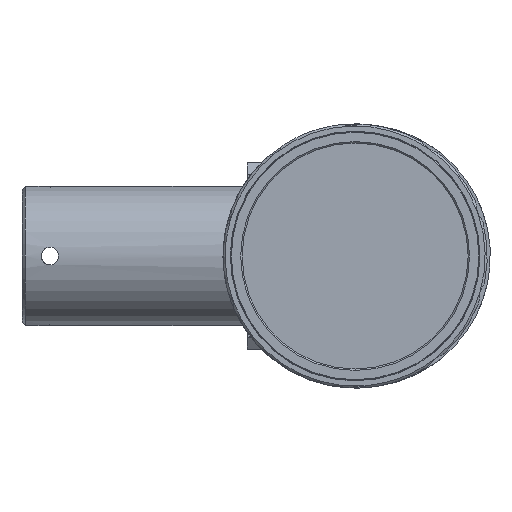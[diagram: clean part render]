
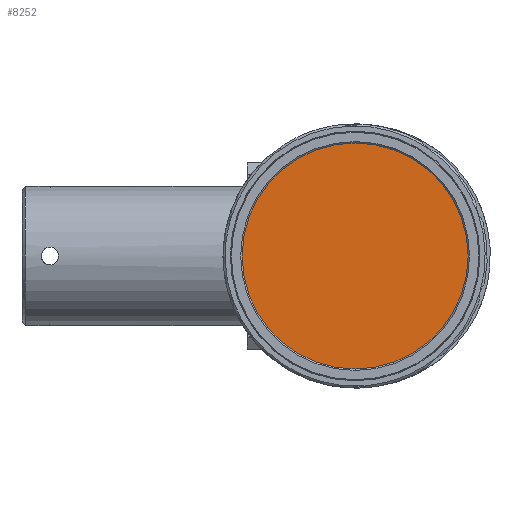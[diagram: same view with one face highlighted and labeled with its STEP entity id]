
A CAD part, left-side view. The second image highlights one B-rep face of the part: STEP entity #8252.
In plain terms, the highlighted planar face has unit normal (-1, 0, 0).
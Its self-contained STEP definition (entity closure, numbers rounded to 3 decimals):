
#129 = CIRCLE ( 'NONE', #4841, 16.25 ) ;
#452 = VERTEX_POINT ( 'NONE', #5163 ) ;
#716 = DIRECTION ( 'NONE',  ( 1., 0., 0. ) ) ;
#1548 = AXIS2_PLACEMENT_3D ( 'NONE', #9177, #716, #7636 ) ;
#2370 = ORIENTED_EDGE ( 'NONE', *, *, #4574, .T. ) ;
#2728 = ORIENTED_EDGE ( 'NONE', *, *, #4948, .T. ) ;
#3091 = CARTESIAN_POINT ( 'NONE',  ( 1.342, 0., 0. ) ) ;
#3210 = DIRECTION ( 'NONE',  ( -1., 0., 0. ) ) ;
#4259 = CARTESIAN_POINT ( 'NONE',  ( 1.342, 0., -16.25 ) ) ;
#4266 = FACE_OUTER_BOUND ( 'NONE', #8610, .T. ) ;
#4574 = EDGE_CURVE ( 'NONE', #5195, #452, #129, .T. ) ;
#4740 = DIRECTION ( 'NONE',  ( 0., 0., -1. ) ) ;
#4841 = AXIS2_PLACEMENT_3D ( 'NONE', #3091, #7026, #4740 ) ;
#4948 = EDGE_CURVE ( 'NONE', #452, #5195, #5456, .T. ) ;
#5163 = CARTESIAN_POINT ( 'NONE',  ( 1.342, 0., 16.25 ) ) ;
#5195 = VERTEX_POINT ( 'NONE', #4259 ) ;
#5456 = CIRCLE ( 'NONE', #5764, 16.25 ) ;
#5574 = CARTESIAN_POINT ( 'NONE',  ( 1.342, 0., 0. ) ) ;
#5764 = AXIS2_PLACEMENT_3D ( 'NONE', #5574, #3210, #9336 ) ;
#7026 = DIRECTION ( 'NONE',  ( -1., 0., 0. ) ) ;
#7636 = DIRECTION ( 'NONE',  ( 0., 0., -1. ) ) ;
#7666 = PLANE ( 'NONE',  #1548 ) ;
#8252 = ADVANCED_FACE ( 'NONE', ( #4266 ), #7666, .F. ) ;
#8610 = EDGE_LOOP ( 'NONE', ( #2728, #2370 ) ) ;
#9177 = CARTESIAN_POINT ( 'NONE',  ( 1.342, -0.523, 0. ) ) ;
#9336 = DIRECTION ( 'NONE',  ( 0., 0., -1. ) ) ;
